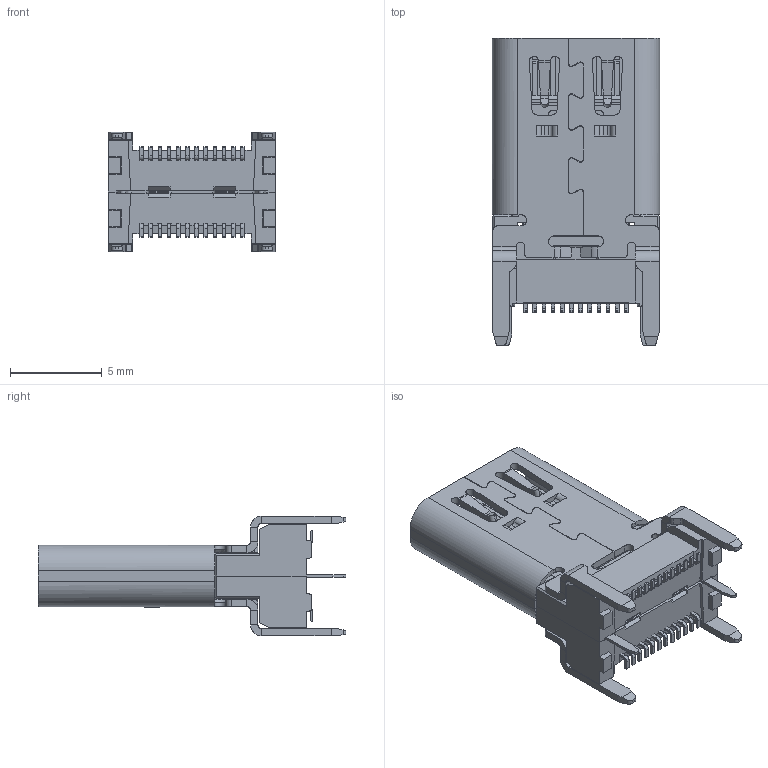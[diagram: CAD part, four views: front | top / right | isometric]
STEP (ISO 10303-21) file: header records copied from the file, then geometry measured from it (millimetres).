
FILE_DESCRIPTION (( 'STEP AP203' ), '1' );
FILE_NAME ('U5205-24PN15.0L.STEP', '2026-09-21T08:07:19', ( '' ), ( '' ), 'SwSTEP 2.0', 'SolidWorks 2024', '' );
FILE_SCHEMA (( 'CONFIG_CONTROL_DESIGN' ));
Products named in the file (1): U5205-24PN15.0L
Bounding box: 9.14 x 16.8 x 6.54 mm (x, y, z)
Surface area: 2329.3 mm2 (no closed solid volume)
Topology: 0 solids, 1042 shells, 5400 faces, 24146 edges, 19141 vertices
Faces by surface type: plane 4112, cylinder 1091, bspline 119, cone 66, torus 12
Entity records: 269417 total; most frequent: CARTESIAN_POINT 122677, ORIENTED_EDGE 34992, EDGE_CURVE 24143, B_SPLINE_CURVE_WITH_KNOTS 21759, VERTEX_POINT 19141, DIRECTION 13363, AXIS2_PLACEMENT_3D 5715, EDGE_LOOP 5705
